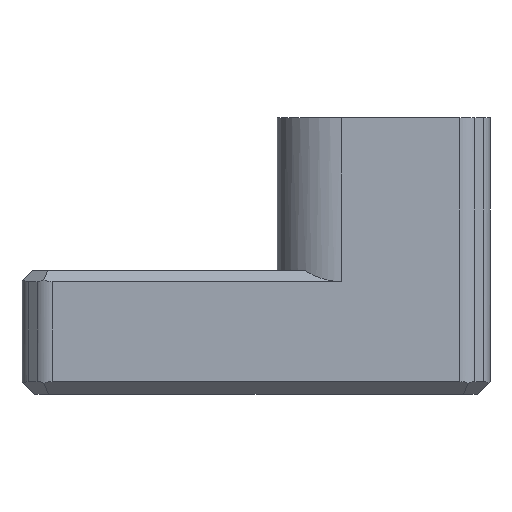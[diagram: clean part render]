
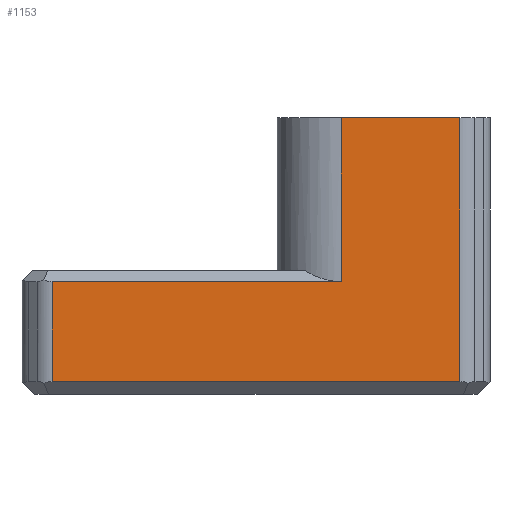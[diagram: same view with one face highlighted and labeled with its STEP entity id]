
A CAD part, front view. The second image highlights one B-rep face of the part: STEP entity #1153.
In plain terms, the highlighted planar face has unit normal (0, -1, 0).
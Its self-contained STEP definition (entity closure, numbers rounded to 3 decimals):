
#310=CARTESIAN_POINT('',(10.586,-4.9,0.6));
#320=CARTESIAN_POINT('',(-8.586,-4.9,0.6));
#337=DIRECTION('',(0.,0.,1.));
#338=VECTOR('',#337,12.4);
#339=CARTESIAN_POINT('',(10.586,-4.9,0.6));
#340=LINE('',#339,#338);
#341=DIRECTION('',(1.,0.,0.));
#342=VECTOR('',#341,19.172);
#343=CARTESIAN_POINT('',(-8.586,-4.9,0.6));
#344=LINE('',#343,#342);
#345=DIRECTION('',(0.,0.,-1.));
#346=VECTOR('',#345,4.7);
#347=CARTESIAN_POINT('',(-8.586,-4.9,5.3));
#348=LINE('',#347,#346);
#349=DIRECTION('',(0.,0.,1.));
#350=VECTOR('',#349,7.7);
#351=CARTESIAN_POINT('',(5.,-4.9,5.3));
#352=LINE('',#351,#350);
#353=DIRECTION('',(1.,0.,0.));
#354=VECTOR('',#353,5.586);
#355=CARTESIAN_POINT('',(5.,-4.9,13.));
#356=LINE('',#355,#354);
#503=CARTESIAN_POINT('',(-8.586,-4.9,5.3));
#513=DIRECTION('',(-1.,0.,0.));
#514=VECTOR('',#513,13.586);
#515=CARTESIAN_POINT('',(5.,-4.9,5.3));
#516=LINE('',#515,#514);
#553=CARTESIAN_POINT('',(5.,-4.9,13.));
#554=VERTEX_POINT('',#553);
#555=CARTESIAN_POINT('',(5.,-4.9,5.3));
#556=VERTEX_POINT('',#555);
#606=CARTESIAN_POINT('',(10.586,-4.9,13.));
#608=VERTEX_POINT('',#606);
#613=VERTEX_POINT('',#310);
#635=VERTEX_POINT('',#320);
#641=VERTEX_POINT('',#503);
#1137=CARTESIAN_POINT('',(-10.,-4.9,0.));
#1138=DIRECTION('',(0.,-1.,0.));
#1139=DIRECTION('',(1.,0.,0.));
#1140=AXIS2_PLACEMENT_3D('',#1137,#1138,#1139);
#1141=PLANE('',#1140);
#1142=ORIENTED_EDGE('',*,*,#1120,.F.);
#1143=ORIENTED_EDGE('',*,*,#1105,.F.);
#1145=ORIENTED_EDGE('',*,*,#1144,.F.);
#1147=ORIENTED_EDGE('',*,*,#1146,.F.);
#1149=ORIENTED_EDGE('',*,*,#1148,.T.);
#1150=ORIENTED_EDGE('',*,*,#890,.T.);
#1151=EDGE_LOOP('',(#1142,#1143,#1145,#1147,#1149,#1150));
#1152=FACE_OUTER_BOUND('',#1151,.F.);
#1153=ADVANCED_FACE('',(#1152),#1141,.T.);
#890=EDGE_CURVE('',#554,#608,#356,.T.);
#1105=EDGE_CURVE('',#635,#613,#344,.T.);
#1120=EDGE_CURVE('',#613,#608,#340,.T.);
#1144=EDGE_CURVE('',#641,#635,#348,.T.);
#1146=EDGE_CURVE('',#556,#641,#516,.T.);
#1148=EDGE_CURVE('',#556,#554,#352,.T.);
